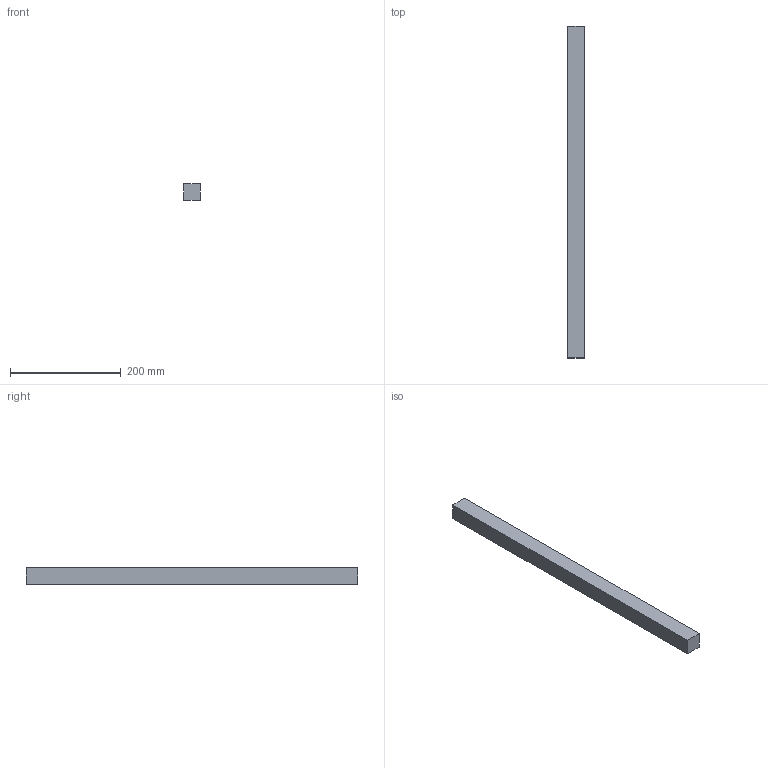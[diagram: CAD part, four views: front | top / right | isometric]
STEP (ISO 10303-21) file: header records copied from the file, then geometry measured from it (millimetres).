
FILE_DESCRIPTION(('Open CASCADE Model'),'2;1');
FILE_NAME('Open CASCADE Shape Model','2026-10-04T01:02:24',('Author'),( 'Open CASCADE'),'Open CASCADE STEP processor 8.0','Open CASCADE 8.0' ,'Unknown');
FILE_SCHEMA(('AUTOMOTIVE_DESIGN { 1 0 10303 214 1 1 1 1 }'));
Length unit declared in the file: millimetre
Products named in the file (1): Open CASCADE STEP translator 8.0 13
Bounding box: 30 x 600 x 30 mm (x, y, z)
Volume: 540000 mm3; surface area: 73800 mm2
Topology: 1 solids, 1 shells, 6 faces, 12 edges, 8 vertices
Faces by surface type: plane 6
Entity records: 322 total; most frequent: CARTESIAN_POINT 51, DIRECTION 50, LINE 36, VECTOR 36, ORIENTED_EDGE 24, PCURVE 24, DEFINITIONAL_REPRESENTATION 24, EDGE_CURVE 12
